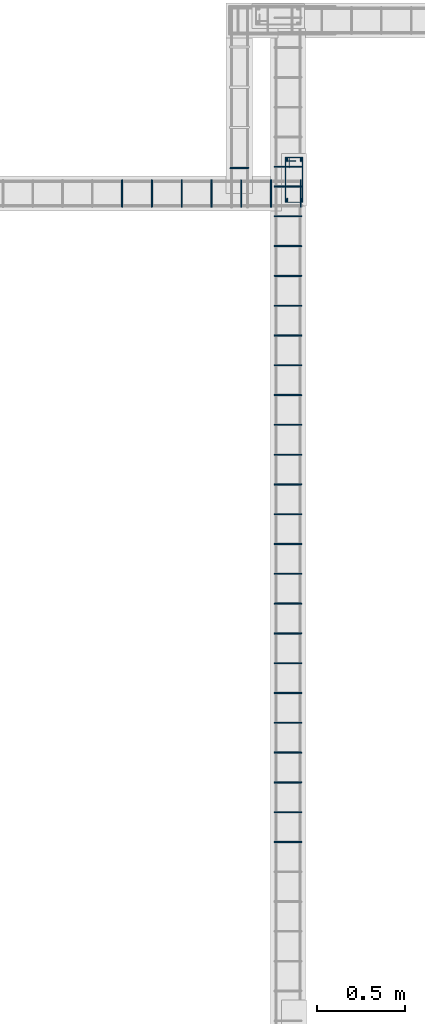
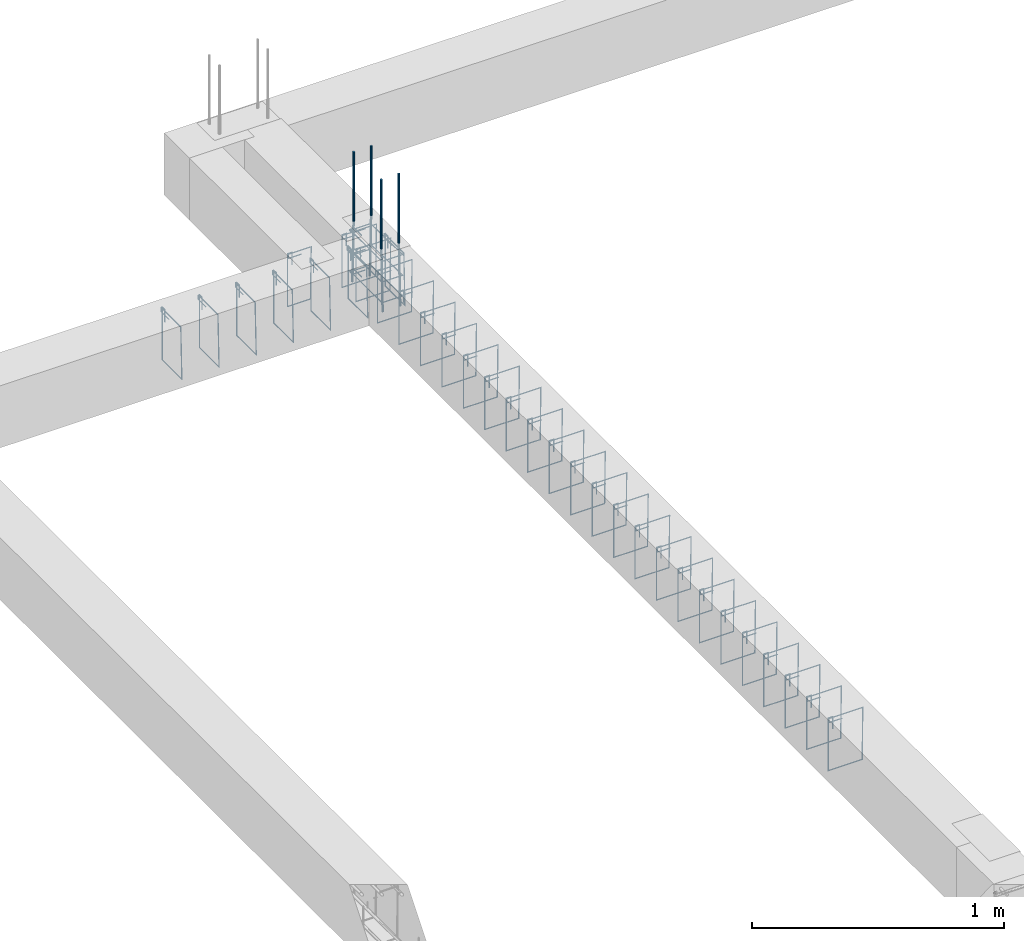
# One storey, part 117 of 150: 39 reinforcing bars.
"""IFC4 building model written with IfcOpenShell, lengths in centimetres."""

from ifc_helpers import new_model, entity, si_unit, derived_unit, frame, origin_with_axes, place, context, project, spatial, source, transform, mapped, element, save


model = new_model("IFC4")

# Units and contexts
model_context = context("Model", 3, precision=1e-05, world=origin_with_axes(), identifier="Body")
ifc_project = project(units=[si_unit("LENGTHUNIT", "METRE", prefix="CENTI"), si_unit("VOLUMEUNIT", "CUBIC_METRE"), si_unit("AREAUNIT", "SQUARE_METRE"), si_unit("POWERUNIT", "WATT"), si_unit("LUMINOUSFLUXUNIT", "LUMEN"), si_unit("ELECTRICCURRENTUNIT", "AMPERE"), si_unit("PRESSUREUNIT", "PASCAL", prefix="KILO"), si_unit("MASSUNIT", "GRAM", prefix="KILO"), si_unit("PLANEANGLEUNIT", "RADIAN"), derived_unit("VOLUMETRICFLOWRATEUNIT", [(si_unit("LENGTHUNIT", "METRE"), 3), (si_unit("TIMEUNIT", "SECOND"), -1)])], contexts=[model_context])

# Site, building, storey
site_placement = place(None, frame((-4000.0, 0.0, 0.0), z_axis=(0.0, 0.0, 1.0), x_axis=(1.0, 0.0, 0.0)))
site = spatial("IfcSite", under=ifc_project, at=site_placement, Name="PADRÃO")
building_placement = place(site_placement, frame((0.0, 0.0, -14.0)))
building = spatial("IfcBuilding", under=site, at=building_placement, Name="CRECHE PRÉ-ESCOLA TIPO 2")
placement = place(building_placement, origin_with_axes())
storey_placement = place(placement, frame((0.0, 0.0, 30.0), z_axis=(0.0, 0.0, 1.0), x_axis=(1.0, 0.0, 0.0)))
storey = spatial("IfcBuildingStorey", under=building, at=storey_placement, Name="VIGA BALDRAME", CompositionType="ELEMENT", Elevation=16.0)

# Reinforcing bars
shared_shape_1 = source(origin_with_axes(), model_context, "Body", "AdvancedSweptSolid", [
    entity("IfcSweptDiskSolid", entity("IfcCompositeCurve", [entity("IfcCompositeCurveSegment", "CONTINUOUS", True, entity("IfcPolyline", [entity("IfcCartesianPoint", [4.25, 21.75, 0.0]), entity("IfcCartesianPoint", [4.25, 27.75, 0.0])])), entity("IfcCompositeCurveSegment", "CONTINUOUS", True, entity("IfcPolyline", [entity("IfcCartesianPoint", [4.25, 27.75, 0.0]), entity("IfcCartesianPoint", [2.25, 27.75, 0.0])])), entity("IfcCompositeCurveSegment", "CONTINUOUS", True, entity("IfcPolyline", [entity("IfcCartesianPoint", [2.25, 27.75, 0.0]), entity("IfcCartesianPoint", [2.25, 2.25, 0.0])])), entity("IfcCompositeCurveSegment", "CONTINUOUS", True, entity("IfcPolyline", [entity("IfcCartesianPoint", [2.25, 2.25, 0.0]), entity("IfcCartesianPoint", [11.75, 2.25, 0.0])])), entity("IfcCompositeCurveSegment", "CONTINUOUS", True, entity("IfcPolyline", [entity("IfcCartesianPoint", [11.75, 2.25, 0.0]), entity("IfcCartesianPoint", [11.75, 27.75, -0.5])])), entity("IfcCompositeCurveSegment", "CONTINUOUS", True, entity("IfcPolyline", [entity("IfcCartesianPoint", [11.75, 27.75, -0.5]), entity("IfcCartesianPoint", [2.25, 27.75, -0.5])])), entity("IfcCompositeCurveSegment", "CONTINUOUS", True, entity("IfcPolyline", [entity("IfcCartesianPoint", [2.25, 27.75, -0.5]), entity("IfcCartesianPoint", [2.25, 25.75, -0.5])])), entity("IfcCompositeCurveSegment", "CONTINUOUS", True, entity("IfcPolyline", [entity("IfcCartesianPoint", [2.25, 25.75, -0.5]), entity("IfcCartesianPoint", [8.25, 25.75, -0.5])]))], False), 0.25),
])
for number, where, z_axis, x_axis, name in (
    (1, (496.67, 3976.5, -5.0), (0.0, 0.0, 1.0), (1.0, 0.0, 0.0), "P24 - Estribo"),
    (2, (496.67, 3976.5, -25.0), (0.0, 0.0, 1.0), (1.0, 0.0, 0.0), "P24 - Estribo"),
    (3, (496.67, 3976.5, -15.0), (0.0, 0.0, 1.0), (1.0, 0.0, 0.0), "P24 - Estribo"),
):
    element("IfcReinforcingBar", number, at=place(storey_placement, frame(where, z_axis=z_axis, x_axis=x_axis)), inside=storey, Name=name, BarLength=0.0, CrossSectionArea=1.9634954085e-05, NominalDiameter=0.5, PredefinedType="MAIN", context=model_context, shape_type="MappedRepresentation", body=[
        mapped(shared_shape_1, transform((0.0, 0.0, 0.0), scale=1.0)),
    ])
shared_shape_2 = source(origin_with_axes(), model_context, "Body", "AdvancedSweptSolid", [
    entity("IfcSweptDiskSolid", entity("IfcCompositeCurve", [entity("IfcCompositeCurveSegment", "CONTINUOUS", True, entity("IfcPolyline", [entity("IfcCartesianPoint", [2.0, -6.0, 0.0]), entity("IfcCartesianPoint", [2.0, 0.0, 0.0])])), entity("IfcCompositeCurveSegment", "CONTINUOUS", True, entity("IfcPolyline", [entity("IfcCartesianPoint", [2.0, 0.0, 0.0]), entity("IfcCartesianPoint", [0.0, 0.0, 0.0])])), entity("IfcCompositeCurveSegment", "CONTINUOUS", True, entity("IfcPolyline", [entity("IfcCartesianPoint", [0.0, 0.0, 0.0]), entity("IfcCartesianPoint", [0.0, -25.5, 0.0])])), entity("IfcCompositeCurveSegment", "CONTINUOUS", True, entity("IfcPolyline", [entity("IfcCartesianPoint", [0.0, -25.5, 0.0]), entity("IfcCartesianPoint", [10.5, -25.5, 0.0])])), entity("IfcCompositeCurveSegment", "CONTINUOUS", True, entity("IfcPolyline", [entity("IfcCartesianPoint", [10.5, -25.5, 0.0]), entity("IfcCartesianPoint", [10.5, 0.0, 0.5])])), entity("IfcCompositeCurveSegment", "CONTINUOUS", True, entity("IfcPolyline", [entity("IfcCartesianPoint", [10.5, 0.0, 0.5]), entity("IfcCartesianPoint", [0.0, 0.0, 0.5])])), entity("IfcCompositeCurveSegment", "CONTINUOUS", True, entity("IfcPolyline", [entity("IfcCartesianPoint", [0.0, 0.0, 0.5]), entity("IfcCartesianPoint", [0.0, -2.0, 0.5])])), entity("IfcCompositeCurveSegment", "CONTINUOUS", True, entity("IfcPolyline", [entity("IfcCartesianPoint", [0.0, -2.0, 0.5]), entity("IfcCartesianPoint", [6.0, -2.0, 0.5])]))], False), 0.25),
])
reinforcing_bar_1_placement = place(storey_placement, frame((467.25, 3998.62, -2.25), z_axis=(0.0, -1.0, 0.0), x_axis=(1.0, 0.0, 0.0)))
element("IfcReinforcingBar", 4, at=reinforcing_bar_1_placement, inside=storey, Name="V174 - Estribo", BarLength=0.0, CrossSectionArea=1.9634954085e-05, NominalDiameter=0.5, PredefinedType="MAIN", context=model_context, shape_type="MappedRepresentation", body=[
    mapped(shared_shape_2, transform((0.0, 0.0, 0.0), scale=1.0)),
])
shared_shape_3 = source(origin_with_axes(), model_context, "Body", "AdvancedSweptSolid", [
    entity("IfcSweptDiskSolid", entity("IfcCompositeCurve", [entity("IfcCompositeCurveSegment", "CONTINUOUS", True, entity("IfcPolyline", [entity("IfcCartesianPoint", [2.0, -6.0, 0.0]), entity("IfcCartesianPoint", [2.0, 0.0, 0.0])])), entity("IfcCompositeCurveSegment", "CONTINUOUS", True, entity("IfcPolyline", [entity("IfcCartesianPoint", [2.0, 0.0, 0.0]), entity("IfcCartesianPoint", [0.0, 0.0, 0.0])])), entity("IfcCompositeCurveSegment", "CONTINUOUS", True, entity("IfcPolyline", [entity("IfcCartesianPoint", [0.0, 0.0, 0.0]), entity("IfcCartesianPoint", [0.0, -25.5, 0.0])])), entity("IfcCompositeCurveSegment", "CONTINUOUS", True, entity("IfcPolyline", [entity("IfcCartesianPoint", [0.0, -25.5, 0.0]), entity("IfcCartesianPoint", [15.5, -25.5, 0.0])])), entity("IfcCompositeCurveSegment", "CONTINUOUS", True, entity("IfcPolyline", [entity("IfcCartesianPoint", [15.5, -25.5, 0.0]), entity("IfcCartesianPoint", [15.5, 0.0, 0.5])])), entity("IfcCompositeCurveSegment", "CONTINUOUS", True, entity("IfcPolyline", [entity("IfcCartesianPoint", [15.5, 0.0, 0.5]), entity("IfcCartesianPoint", [0.0, 0.0, 0.5])])), entity("IfcCompositeCurveSegment", "CONTINUOUS", True, entity("IfcPolyline", [entity("IfcCartesianPoint", [0.0, 0.0, 0.5]), entity("IfcCartesianPoint", [0.0, -2.0, 0.5])])), entity("IfcCompositeCurveSegment", "CONTINUOUS", True, entity("IfcPolyline", [entity("IfcCartesianPoint", [0.0, -2.0, 0.5]), entity("IfcCartesianPoint", [6.0, -2.0, 0.5])]))], False), 0.25),
])
for number, where, z_axis, x_axis, name in (
    (5, (492.44, 3818.0, -2.25), (0.0, -1.0, 0.0), (1.0, 0.0, 0.0), "V173 - Estribo"),
    (6, (492.44, 3835.0, -2.25), (0.0, -1.0, 0.0), (1.0, 0.0, 0.0), "V173 - Estribo"),
    (7, (492.44, 3869.0, -2.25), (0.0, -1.0, 0.0), (1.0, 0.0, 0.0), "V173 - Estribo"),
    (8, (492.44, 3886.0, -2.25), (0.0, -1.0, 0.0), (1.0, 0.0, 0.0), "V173 - Estribo"),
    (9, (492.44, 3903.0, -2.25), (0.0, -1.0, 0.0), (1.0, 0.0, 0.0), "V173 - Estribo"),
    (10, (492.44, 3920.0, -2.25), (0.0, -1.0, 0.0), (1.0, 0.0, 0.0), "V173 - Estribo"),
    (11, (492.44, 3937.0, -2.25), (0.0, -1.0, 0.0), (1.0, 0.0, 0.0), "V173 - Estribo"),
    (12, (492.44, 3954.0, -2.25), (0.0, -1.0, 0.0), (1.0, 0.0, 0.0), "V173 - Estribo"),
    (13, (492.44, 3852.0, -2.25), (0.0, -1.0, 0.0), (1.0, 0.0, 0.0), "V173 - Estribo"),
    (14, (492.44, 3784.0, -2.25), (0.0, -1.0, 0.0), (1.0, 0.0, 0.0), "V173 - Estribo"),
    (15, (492.44, 3971.0, -2.25), (0.0, -1.0, 0.0), (1.0, 0.0, 0.0), "V173 - Estribo"),
    (16, (492.44, 3988.0, -2.25), (0.0, -1.0, 0.0), (1.0, 0.0, 0.0), "V173 - Estribo"),
    (17, (492.44, 3733.0, -2.25), (0.0, -1.0, 0.0), (1.0, 0.0, 0.0), "V173 - Estribo"),
    (18, (492.44, 3750.0, -2.25), (0.0, -1.0, 0.0), (1.0, 0.0, 0.0), "V173 - Estribo"),
    (19, (492.44, 3767.0, -2.25), (0.0, -1.0, 0.0), (1.0, 0.0, 0.0), "V173 - Estribo"),
    (20, (492.44, 3801.0, -2.25), (0.0, -1.0, 0.0), (1.0, 0.0, 0.0), "V173 - Estribo"),
    (21, (492.44, 3716.0, -2.25), (0.0, -1.0, 0.0), (1.0, 0.0, 0.0), "V173 - Estribo"),
    (22, (492.44, 3699.0, -2.25), (0.0, -1.0, 0.0), (1.0, 0.0, 0.0), "V173 - Estribo"),
    (23, (492.44, 3682.0, -2.25), (0.0, -1.0, 0.0), (1.0, 0.0, 0.0), "V173 - Estribo"),
    (24, (492.44, 3665.0, -2.25), (0.0, -1.0, 0.0), (1.0, 0.0, 0.0), "V173 - Estribo"),
    (25, (492.44, 3648.0, -2.25), (0.0, -1.0, 0.0), (1.0, 0.0, 0.0), "V173 - Estribo"),
    (26, (492.44, 3631.0, -2.25), (0.0, -1.0, 0.0), (1.0, 0.0, 0.0), "V173 - Estribo"),
    (27, (492.44, 3614.0, -2.25), (0.0, -1.0, 0.0), (1.0, 0.0, 0.0), "V173 - Estribo"),
):
    element("IfcReinforcingBar", number, at=place(storey_placement, frame(where, z_axis=z_axis, x_axis=x_axis)), inside=storey, Name=name, BarLength=0.0, CrossSectionArea=1.9634954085e-05, NominalDiameter=0.5, PredefinedType="MAIN", context=model_context, shape_type="MappedRepresentation", body=[
        mapped(shared_shape_3, transform((0.0, 0.0, 0.0), scale=1.0)),
    ])
shared_shape_4 = source(origin_with_axes(), model_context, "Body", "AdvancedSweptSolid", [
    entity("IfcSweptDiskSolid", entity("IfcCompositeCurve", [entity("IfcCompositeCurveSegment", "CONTINUOUS", True, entity("IfcPolyline", [entity("IfcCartesianPoint", [2.0, -6.0, 0.0]), entity("IfcCartesianPoint", [2.0, 0.0, 0.0])])), entity("IfcCompositeCurveSegment", "CONTINUOUS", True, entity("IfcPolyline", [entity("IfcCartesianPoint", [2.0, 0.0, 0.0]), entity("IfcCartesianPoint", [0.0, 0.0, 0.0])])), entity("IfcCompositeCurveSegment", "CONTINUOUS", True, entity("IfcPolyline", [entity("IfcCartesianPoint", [0.0, 0.0, 0.0]), entity("IfcCartesianPoint", [0.0, -25.5, 0.0])])), entity("IfcCompositeCurveSegment", "CONTINUOUS", True, entity("IfcPolyline", [entity("IfcCartesianPoint", [0.0, -25.5, 0.0]), entity("IfcCartesianPoint", [15.5, -25.5, 0.0])])), entity("IfcCompositeCurveSegment", "CONTINUOUS", True, entity("IfcPolyline", [entity("IfcCartesianPoint", [15.5, -25.5, 0.0]), entity("IfcCartesianPoint", [15.5, 0.0, 0.5])])), entity("IfcCompositeCurveSegment", "CONTINUOUS", True, entity("IfcPolyline", [entity("IfcCartesianPoint", [15.5, 0.0, 0.5]), entity("IfcCartesianPoint", [0.0, 0.0, 0.5])])), entity("IfcCompositeCurveSegment", "CONTINUOUS", True, entity("IfcPolyline", [entity("IfcCartesianPoint", [0.0, 0.0, 0.5]), entity("IfcCartesianPoint", [0.0, -2.0, 0.5])])), entity("IfcCompositeCurveSegment", "CONTINUOUS", True, entity("IfcPolyline", [entity("IfcCartesianPoint", [0.0, -2.0, 0.5]), entity("IfcCartesianPoint", [6.0, -2.0, 0.5])]))], False), 0.25),
])
reinforcing_bar_2_placement = place(storey_placement, frame((492.44, 3999.25, -2.25), z_axis=(0.0, -1.0, 0.0), x_axis=(1.0, 0.0, 0.0)))
element("IfcReinforcingBar", 28, at=reinforcing_bar_2_placement, inside=storey, Name="V173 - Estribo", BarLength=0.0, CrossSectionArea=1.9634954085e-05, NominalDiameter=0.5, PredefinedType="MAIN", context=model_context, shape_type="MappedRepresentation", body=[
    mapped(shared_shape_4, transform((0.0, 0.0, 0.0), scale=1.0)),
])
shared_shape_5 = source(origin_with_axes(), model_context, "Body", "AdvancedSweptSolid", [
    entity("IfcSweptDiskSolid", entity("IfcCompositeCurve", [entity("IfcCompositeCurveSegment", "CONTINUOUS", True, entity("IfcPolyline", [entity("IfcCartesianPoint", [2.0, -6.0, 0.0]), entity("IfcCartesianPoint", [2.0, 0.0, 0.0])])), entity("IfcCompositeCurveSegment", "CONTINUOUS", True, entity("IfcPolyline", [entity("IfcCartesianPoint", [2.0, 0.0, 0.0]), entity("IfcCartesianPoint", [0.0, 0.0, 0.0])])), entity("IfcCompositeCurveSegment", "CONTINUOUS", True, entity("IfcPolyline", [entity("IfcCartesianPoint", [0.0, 0.0, 0.0]), entity("IfcCartesianPoint", [0.0, -25.5, 0.0])])), entity("IfcCompositeCurveSegment", "CONTINUOUS", True, entity("IfcPolyline", [entity("IfcCartesianPoint", [0.0, -25.5, 0.0]), entity("IfcCartesianPoint", [15.5, -25.5, 0.0])])), entity("IfcCompositeCurveSegment", "CONTINUOUS", True, entity("IfcPolyline", [entity("IfcCartesianPoint", [15.5, -25.5, 0.0]), entity("IfcCartesianPoint", [15.5, 0.0, 0.5])])), entity("IfcCompositeCurveSegment", "CONTINUOUS", True, entity("IfcPolyline", [entity("IfcCartesianPoint", [15.5, 0.0, 0.5]), entity("IfcCartesianPoint", [0.0, 0.0, 0.5])])), entity("IfcCompositeCurveSegment", "CONTINUOUS", True, entity("IfcPolyline", [entity("IfcCartesianPoint", [0.0, 0.0, 0.5]), entity("IfcCartesianPoint", [0.0, -2.0, 0.5])])), entity("IfcCompositeCurveSegment", "CONTINUOUS", True, entity("IfcPolyline", [entity("IfcCartesianPoint", [0.0, -2.0, 0.5]), entity("IfcCartesianPoint", [6.0, -2.0, 0.5])]))], False), 0.25),
])
for number, where, z_axis, x_axis, name in (
    (29, (405.835, 3991.5, -2.25), (-1.0, 0.0, 0.0), (0.0, -1.0, 0.0), "V104 - Estribo"),
    (30, (507.835, 3991.5, -2.25), (-1.0, 0.0, 0.0), (0.0, -1.0, 0.0), "V104 - Estribo"),
    (31, (490.835, 3991.5, -2.25), (-1.0, 0.0, 0.0), (0.0, -1.0, 0.0), "V104 - Estribo"),
    (32, (473.835, 3991.5, -2.25), (-1.0, 0.0, 0.0), (0.0, -1.0, 0.0), "V104 - Estribo"),
    (33, (456.835, 3991.5, -2.25), (-1.0, 0.0, 0.0), (0.0, -1.0, 0.0), "V104 - Estribo"),
    (34, (439.835, 3991.5, -2.25), (-1.0, 0.0, 0.0), (0.0, -1.0, 0.0), "V104 - Estribo"),
    (35, (422.835, 3991.5, -2.25), (-1.0, 0.0, 0.0), (0.0, -1.0, 0.0), "V104 - Estribo"),
):
    element("IfcReinforcingBar", number, at=place(storey_placement, frame(where, z_axis=z_axis, x_axis=x_axis)), inside=storey, Name=name, BarLength=0.0, CrossSectionArea=1.9634954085e-05, NominalDiameter=0.5, PredefinedType="MAIN", context=model_context, shape_type="MappedRepresentation", body=[
        mapped(shared_shape_5, transform((0.0, 0.0, 0.0), scale=1.0)),
    ])
for number, where, z_axis, x_axis, name in (
    (36, (507.67, 4002.99986122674, 33.3573001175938), (0.0, 0.0, 1.0), (1.0, 0.0, 0.0), "P24 - Longitudinal"),
    (37, (499.67, 4002.99986122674, 33.3573001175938), (0.0, 0.0, 1.0), (1.0, 0.0, 0.0), "P24 - Longitudinal"),
):
    element("IfcReinforcingBar", number, at=place(storey_placement, frame(where, z_axis=z_axis, x_axis=x_axis)), inside=storey, Name=name, BarLength=0.0, CrossSectionArea=7.853981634e-05, NominalDiameter=1.0, PredefinedType="MAIN", context=model_context, shape_type="AdvancedSweptSolid", body=[
        entity("IfcSweptDiskSolid", entity("IfcCompositeCurve", [entity("IfcCompositeCurveSegment", "CONTINUOUS", True, entity("IfcPolyline", [entity("IfcCartesianPoint", [0.0, 0.500138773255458, -63.3573001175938]), entity("IfcCartesianPoint", [0.0, -0.499861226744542, -33.3573001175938])])), entity("IfcCompositeCurveSegment", "CONTINUOUS", True, entity("IfcPolyline", [entity("IfcCartesianPoint", [0.0, -0.499861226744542, -33.3573001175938]), entity("IfcCartesianPoint", [0.0, -0.499861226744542, 0.0])]))], False), 0.5),
    ])
for number, where, z_axis, x_axis, name in (
    (38, (507.67, 3980.00013877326, 33.3573001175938), (0.0, 0.0, 1.0), (1.0, 0.0, 0.0), "P24 - Longitudinal"),
    (39, (499.67, 3980.00013877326, 33.3573001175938), (0.0, 0.0, 1.0), (1.0, 0.0, 0.0), "P24 - Longitudinal"),
):
    element("IfcReinforcingBar", number, at=place(storey_placement, frame(where, z_axis=z_axis, x_axis=x_axis)), inside=storey, Name=name, BarLength=0.0, CrossSectionArea=7.853981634e-05, NominalDiameter=1.0, PredefinedType="MAIN", context=model_context, shape_type="AdvancedSweptSolid", body=[
        entity("IfcSweptDiskSolid", entity("IfcCompositeCurve", [entity("IfcCompositeCurveSegment", "CONTINUOUS", True, entity("IfcPolyline", [entity("IfcCartesianPoint", [0.0, -0.500138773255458, -63.3573001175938]), entity("IfcCartesianPoint", [0.0, 0.499861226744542, -33.3573001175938])])), entity("IfcCompositeCurveSegment", "CONTINUOUS", True, entity("IfcPolyline", [entity("IfcCartesianPoint", [0.0, 0.499861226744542, -33.3573001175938]), entity("IfcCartesianPoint", [0.0, 0.499861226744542, 0.0])]))], False), 0.5),
    ])

save(model, "model.ifc")
